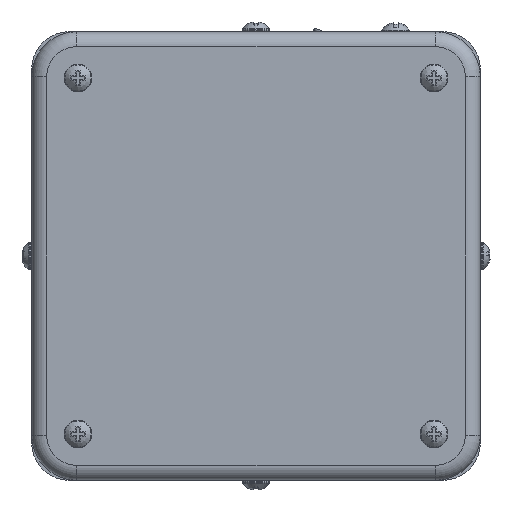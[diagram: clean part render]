
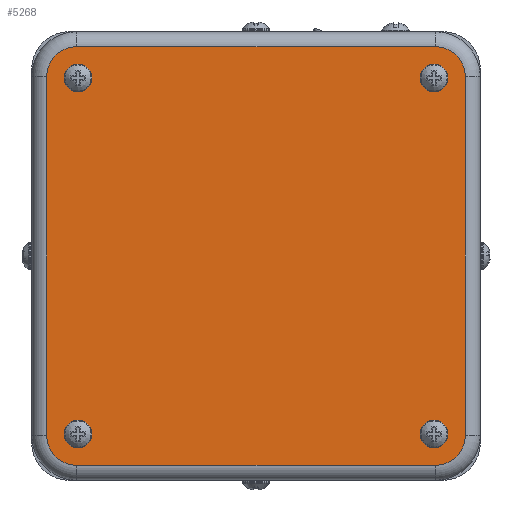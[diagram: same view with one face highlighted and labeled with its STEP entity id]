
A CAD part, left-side view. The second image highlights one B-rep face of the part: STEP entity #5268.
In plain terms, the highlighted planar face has unit normal (-1, 0, 0).
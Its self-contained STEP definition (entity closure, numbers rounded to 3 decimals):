
#403=LINE('',#8870,#765);
#404=LINE('',#8874,#766);
#405=LINE('',#8878,#767);
#406=LINE('',#8881,#768);
#765=VECTOR('',#6690,72.);
#766=VECTOR('',#6693,72.);
#767=VECTOR('',#6696,72.);
#768=VECTOR('',#6699,72.);
#1057=FACE_BOUND('',#1668,.T.);
#1058=FACE_BOUND('',#1669,.T.);
#1059=FACE_BOUND('',#1670,.T.);
#1060=FACE_BOUND('',#1671,.T.);
#1293=FACE_OUTER_BOUND('',#1667,.T.);
#1667=EDGE_LOOP('',(#4015,#4016,#4017,#4018,#4019,#4020,#4021,#4022));
#1668=EDGE_LOOP('',(#4023));
#1669=EDGE_LOOP('',(#4024));
#1670=EDGE_LOOP('',(#4025));
#1671=EDGE_LOOP('',(#4026));
#1893=CIRCLE('',#5519,2.8);
#1900=CIRCLE('',#5544,2.8);
#1907=CIRCLE('',#5569,2.8);
#1937=CIRCLE('',#5685,6.);
#1938=CIRCLE('',#5686,6.);
#1939=CIRCLE('',#5687,6.);
#1940=CIRCLE('',#5688,6.);
#1941=CIRCLE('',#5689,2.8);
#2099=VERTEX_POINT('',#7471);
#2131=VERTEX_POINT('',#7666);
#2163=VERTEX_POINT('',#7863);
#2330=VERTEX_POINT('',#8866);
#2331=VERTEX_POINT('',#8867);
#2332=VERTEX_POINT('',#8869);
#2333=VERTEX_POINT('',#8871);
#2334=VERTEX_POINT('',#8873);
#2335=VERTEX_POINT('',#8875);
#2336=VERTEX_POINT('',#8877);
#2337=VERTEX_POINT('',#8879);
#2338=VERTEX_POINT('',#8882);
#2607=EDGE_CURVE('',#2099,#2099,#1893,.T.);
#2652=EDGE_CURVE('',#2131,#2131,#1900,.T.);
#2697=EDGE_CURVE('',#2163,#2163,#1907,.T.);
#2933=EDGE_CURVE('',#2330,#2331,#1937,.T.);
#2934=EDGE_CURVE('',#2332,#2330,#403,.T.);
#2935=EDGE_CURVE('',#2333,#2332,#1938,.T.);
#2936=EDGE_CURVE('',#2334,#2333,#404,.T.);
#2937=EDGE_CURVE('',#2335,#2334,#1939,.T.);
#2938=EDGE_CURVE('',#2336,#2335,#405,.T.);
#2939=EDGE_CURVE('',#2337,#2336,#1940,.T.);
#2940=EDGE_CURVE('',#2331,#2337,#406,.T.);
#2941=EDGE_CURVE('',#2338,#2338,#1941,.T.);
#4015=ORIENTED_EDGE('',*,*,#2933,.F.);
#4016=ORIENTED_EDGE('',*,*,#2934,.F.);
#4017=ORIENTED_EDGE('',*,*,#2935,.F.);
#4018=ORIENTED_EDGE('',*,*,#2936,.F.);
#4019=ORIENTED_EDGE('',*,*,#2937,.F.);
#4020=ORIENTED_EDGE('',*,*,#2938,.F.);
#4021=ORIENTED_EDGE('',*,*,#2939,.F.);
#4022=ORIENTED_EDGE('',*,*,#2940,.F.);
#4023=ORIENTED_EDGE('',*,*,#2607,.T.);
#4024=ORIENTED_EDGE('',*,*,#2941,.T.);
#4025=ORIENTED_EDGE('',*,*,#2652,.T.);
#4026=ORIENTED_EDGE('',*,*,#2697,.T.);
#4700=PLANE('',#5684);
#5268=ADVANCED_FACE('',(#1293,#1057,#1058,#1059,#1060),#4700,.F.);
#5519=AXIS2_PLACEMENT_3D('',#7472,#6172,#6173);
#5544=AXIS2_PLACEMENT_3D('',#7667,#6246,#6247);
#5569=AXIS2_PLACEMENT_3D('',#7864,#6320,#6321);
#5684=AXIS2_PLACEMENT_3D('',#8865,#6686,#6687);
#5685=AXIS2_PLACEMENT_3D('',#8868,#6688,#6689);
#5686=AXIS2_PLACEMENT_3D('',#8872,#6691,#6692);
#5687=AXIS2_PLACEMENT_3D('',#8876,#6694,#6695);
#5688=AXIS2_PLACEMENT_3D('',#8880,#6697,#6698);
#5689=AXIS2_PLACEMENT_3D('',#8883,#6700,#6701);
#6172=DIRECTION('center_axis',(1.,0.,0.));
#6173=DIRECTION('ref_axis',(0.,0.,-1.));
#6246=DIRECTION('center_axis',(1.,0.,0.));
#6247=DIRECTION('ref_axis',(0.,0.,-1.));
#6320=DIRECTION('center_axis',(1.,0.,0.));
#6321=DIRECTION('ref_axis',(0.,0.,-1.));
#6686=DIRECTION('center_axis',(1.,0.,0.));
#6687=DIRECTION('ref_axis',(0.,0.,1.));
#6688=DIRECTION('center_axis',(1.,0.,0.));
#6689=DIRECTION('ref_axis',(0.,0.707,0.707));
#6690=DIRECTION('',(0.,0.,1.));
#6691=DIRECTION('center_axis',(1.,0.,0.));
#6692=DIRECTION('ref_axis',(0.,0.707,-0.707));
#6693=DIRECTION('',(0.,1.,0.));
#6694=DIRECTION('center_axis',(1.,0.,0.));
#6695=DIRECTION('ref_axis',(0.,-0.707,-0.707));
#6696=DIRECTION('',(0.,0.,-1.));
#6697=DIRECTION('center_axis',(1.,0.,0.));
#6698=DIRECTION('ref_axis',(0.,-0.707,0.707));
#6699=DIRECTION('',(0.,-1.,0.));
#6700=DIRECTION('center_axis',(1.,0.,0.));
#6701=DIRECTION('ref_axis',(0.,0.,-1.));
#7471=CARTESIAN_POINT('',(-54.8,-35.709,-32.909));
#7472=CARTESIAN_POINT('Origin',(-54.8,-35.709,-35.709));
#7666=CARTESIAN_POINT('',(-54.8,-35.709,38.509));
#7667=CARTESIAN_POINT('Origin',(-54.8,-35.709,35.709));
#7863=CARTESIAN_POINT('',(-54.8,35.709,38.509));
#7864=CARTESIAN_POINT('Origin',(-54.8,35.709,35.709));
#8865=CARTESIAN_POINT('Origin',(-54.8,7.027,7.027));
#8866=CARTESIAN_POINT('',(-54.8,42.,36.));
#8867=CARTESIAN_POINT('',(-54.8,36.,42.));
#8868=CARTESIAN_POINT('Origin',(-54.8,36.,36.));
#8869=CARTESIAN_POINT('',(-54.8,42.,-36.));
#8870=CARTESIAN_POINT('',(-54.8,42.,-36.));
#8871=CARTESIAN_POINT('',(-54.8,36.,-42.));
#8872=CARTESIAN_POINT('Origin',(-54.8,36.,-36.));
#8873=CARTESIAN_POINT('',(-54.8,-36.,-42.));
#8874=CARTESIAN_POINT('',(-54.8,-36.,-42.));
#8875=CARTESIAN_POINT('',(-54.8,-42.,-36.));
#8876=CARTESIAN_POINT('Origin',(-54.8,-36.,-36.));
#8877=CARTESIAN_POINT('',(-54.8,-42.,36.));
#8878=CARTESIAN_POINT('',(-54.8,-42.,36.));
#8879=CARTESIAN_POINT('',(-54.8,-36.,42.));
#8880=CARTESIAN_POINT('Origin',(-54.8,-36.,36.));
#8881=CARTESIAN_POINT('',(-54.8,36.,42.));
#8882=CARTESIAN_POINT('',(-54.8,35.709,-32.909));
#8883=CARTESIAN_POINT('Origin',(-54.8,35.709,-35.709));
